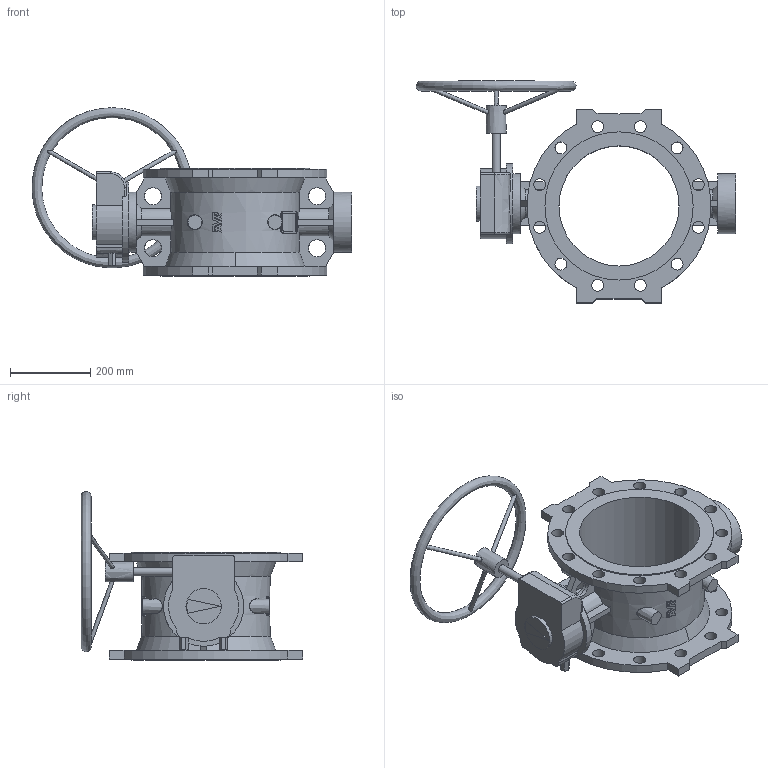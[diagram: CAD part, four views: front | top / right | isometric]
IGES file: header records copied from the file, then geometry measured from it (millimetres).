
Start section: SolidWorks IGES file using analytic representation for surfaces
Global section: file name: \\avksan2\techshare\PBM outline export from Enovia\O_756_1_DN300_1XX00_AA0_igs.igs; native system: SolidWorks 2012; preprocessor: SolidWorks 2012; author: pbm; date: 160304.123636; units: millimetre
Bounding box: 798.78 x 554 x 420.98 mm (x, y, z)
Surface area: 1341053.9 mm2 (no closed solid volume)
Topology: 0 solids, 0 shells, 374 faces, 3022 edges, 2937 vertices
Faces by surface type: bspline 272, revolution 102
